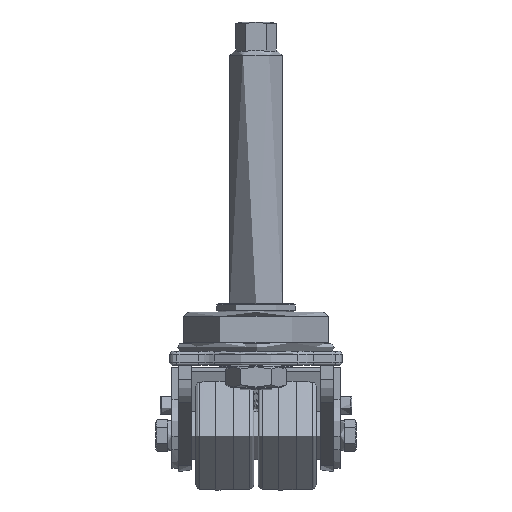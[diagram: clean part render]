
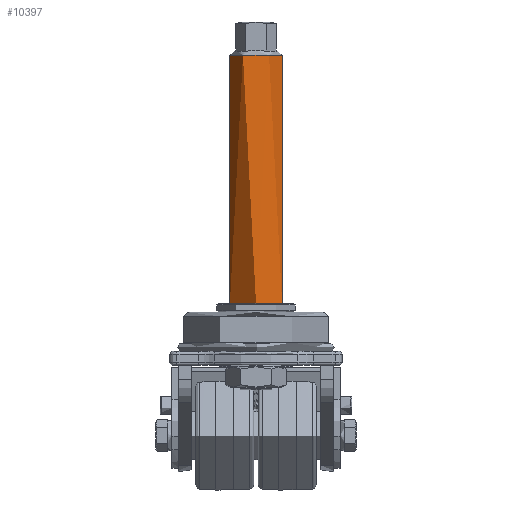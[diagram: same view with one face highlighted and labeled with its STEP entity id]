
A CAD part, top view. The second image highlights one B-rep face of the part: STEP entity #10397.
In plain terms, the highlighted cylindrical face has radius 18 mm (diameter 36 mm), a full revolution.
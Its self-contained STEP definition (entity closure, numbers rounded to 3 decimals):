
#1718=LINE('',#18360,#2584);
#2584=VECTOR('',#13614,18.);
#2701=CYLINDRICAL_SURFACE('',#11222,18.);
#3250=FACE_OUTER_BOUND('',#3932,.T.);
#3932=EDGE_LOOP('',(#9462,#9463,#9464,#9465,#9466));
#4309=CIRCLE('',#11220,18.);
#4310=CIRCLE('',#11221,18.);
#4311=CIRCLE('',#11223,18.);
#5231=VERTEX_POINT('',#18353);
#5232=VERTEX_POINT('',#18355);
#5233=VERTEX_POINT('',#18359);
#6663=EDGE_CURVE('',#5231,#5232,#4309,.T.);
#6664=EDGE_CURVE('',#5232,#5231,#4310,.T.);
#6665=EDGE_CURVE('',#5232,#5233,#1718,.T.);
#6666=EDGE_CURVE('',#5233,#5233,#4311,.T.);
#9462=ORIENTED_EDGE('',*,*,#6663,.F.);
#9463=ORIENTED_EDGE('',*,*,#6664,.F.);
#9464=ORIENTED_EDGE('',*,*,#6665,.T.);
#9465=ORIENTED_EDGE('',*,*,#6666,.F.);
#9466=ORIENTED_EDGE('',*,*,#6665,.F.);
#10397=ADVANCED_FACE('',(#3250),#2701,.T.);
#11220=AXIS2_PLACEMENT_3D('',#18356,#13608,#13609);
#11221=AXIS2_PLACEMENT_3D('',#18357,#13610,#13611);
#11222=AXIS2_PLACEMENT_3D('',#18358,#13612,#13613);
#11223=AXIS2_PLACEMENT_3D('',#18361,#13615,#13616);
#13608=DIRECTION('center_axis',(0.,1.,0.));
#13609=DIRECTION('ref_axis',(-1.,0.,0.));
#13610=DIRECTION('center_axis',(0.,1.,0.));
#13611=DIRECTION('ref_axis',(-1.,0.,0.));
#13612=DIRECTION('center_axis',(0.,1.,0.));
#13613=DIRECTION('ref_axis',(1.,0.,0.));
#13614=DIRECTION('',(0.,-1.,0.));
#13615=DIRECTION('center_axis',(0.,-1.,0.));
#13616=DIRECTION('ref_axis',(1.,0.,0.));
#18353=CARTESIAN_POINT('',(18.,177.,0.));
#18355=CARTESIAN_POINT('',(-18.,177.,0.));
#18356=CARTESIAN_POINT('Origin',(0.,177.,0.));
#18357=CARTESIAN_POINT('Origin',(0.,177.,0.));
#18358=CARTESIAN_POINT('Origin',(0.,6.,0.));
#18359=CARTESIAN_POINT('',(-18.,6.,0.));
#18360=CARTESIAN_POINT('',(-18.,6.,0.));
#18361=CARTESIAN_POINT('Origin',(0.,6.,0.));
